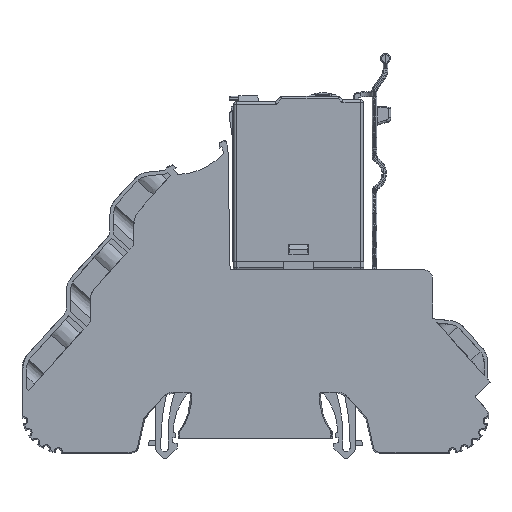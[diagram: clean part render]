
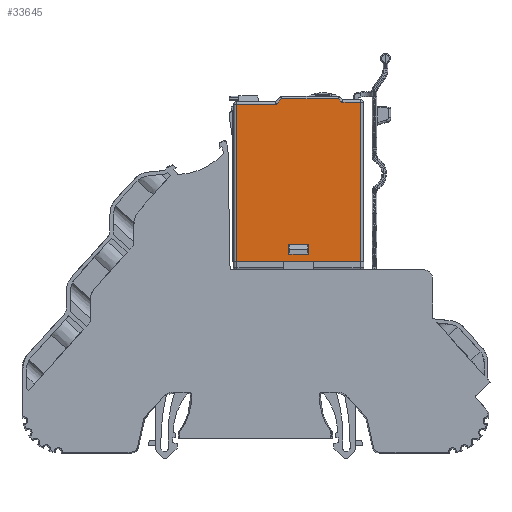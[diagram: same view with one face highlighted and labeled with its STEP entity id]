
A CAD part, left-side view. The second image highlights one B-rep face of the part: STEP entity #33645.
In plain terms, the highlighted planar face has unit normal (-1, 0, 0).
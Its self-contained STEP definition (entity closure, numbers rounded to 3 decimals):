
#214 = CARTESIAN_POINT ( 'NONE',  ( -10.45, -14.499, 73.7 ) ) ;
#1364 = VERTEX_POINT ( 'NONE', #60290 ) ;
#1937 = CARTESIAN_POINT ( 'NONE',  ( -10.45, 12.501, 72.6 ) ) ;
#3916 = EDGE_CURVE ( 'NONE', #36098, #75476, #33193, .T. ) ;
#4245 = ORIENTED_EDGE ( 'NONE', *, *, #9318, .T. ) ;
#5753 = DIRECTION ( 'NONE',  ( 0., 0.707, 0.707 ) ) ;
#7607 = DIRECTION ( 'NONE',  ( 0., -1., 0. ) ) ;
#9318 = EDGE_CURVE ( 'NONE', #109759, #35373, #58337, .T. ) ;
#9528 = CARTESIAN_POINT ( 'NONE',  ( -10.45, -2.999, 41.3 ) ) ;
#12161 = CARTESIAN_POINT ( 'NONE',  ( -10.45, -13.999, 39.8 ) ) ;
#13905 = VECTOR ( 'NONE', #91153, 1000. ) ;
#14300 = ORIENTED_EDGE ( 'NONE', *, *, #114375, .T. ) ;
#14884 = CARTESIAN_POINT ( 'NONE',  ( -10.45, 3.498, 72.746 ) ) ;
#15983 = VERTEX_POINT ( 'NONE', #27498 ) ;
#16263 = EDGE_CURVE ( 'NONE', #99762, #1364, #16923, .T. ) ;
#16923 = LINE ( 'NONE', #14884, #88416 ) ;
#19198 = VECTOR ( 'NONE', #110860, 1000. ) ;
#20336 = VECTOR ( 'NONE', #28604, 1000. ) ;
#22934 = ORIENTED_EDGE ( 'NONE', *, *, #99804, .F. ) ;
#22935 = EDGE_CURVE ( 'NONE', #75476, #83388, #61711, .T. ) ;
#27498 = CARTESIAN_POINT ( 'NONE',  ( -10.45, 12.001, 72.6 ) ) ;
#27507 = ORIENTED_EDGE ( 'NONE', *, *, #90460, .T. ) ;
#27508 = ORIENTED_EDGE ( 'NONE', *, *, #43175, .F. ) ;
#27666 = CARTESIAN_POINT ( 'NONE',  ( -10.45, -13.999, 73. ) ) ;
#27786 = LINE ( 'NONE', #214, #78220 ) ;
#28334 = ORIENTED_EDGE ( 'NONE', *, *, #22935, .F. ) ;
#28604 = DIRECTION ( 'NONE',  ( 0., 0., 1. ) ) ;
#30132 = DIRECTION ( 'NONE',  ( 0., 0., 1. ) ) ;
#31050 = DIRECTION ( 'NONE',  ( 0., -1., 0. ) ) ;
#33193 = LINE ( 'NONE', #76080, #19198 ) ;
#33350 = EDGE_LOOP ( 'NONE', ( #103769, #4245, #14300, #113333, #39985, #37641, #27507, #110019 ) ) ;
#33645 = ADVANCED_FACE ( 'NONE', ( #86786, #40436 ), #77346, .T. ) ;
#33849 = AXIS2_PLACEMENT_3D ( 'NONE', #89759, #107255, #70503 ) ;
#35373 = VERTEX_POINT ( 'NONE', #27666 ) ;
#36098 = VERTEX_POINT ( 'NONE', #79157 ) ;
#37641 = ORIENTED_EDGE ( 'NONE', *, *, #16263, .T. ) ;
#38404 = VECTOR ( 'NONE', #5753, 1000. ) ;
#38457 = EDGE_CURVE ( 'NONE', #94010, #99762, #27786, .T. ) ;
#39985 = ORIENTED_EDGE ( 'NONE', *, *, #38457, .T. ) ;
#40436 = FACE_BOUND ( 'NONE', #92869, .T. ) ;
#43175 = EDGE_CURVE ( 'NONE', #87247, #36098, #110288, .T. ) ;
#44352 = EDGE_CURVE ( 'NONE', #66578, #94010, #51033, .T. ) ;
#46856 = LINE ( 'NONE', #55899, #20336 ) ;
#46893 = CARTESIAN_POINT ( 'NONE',  ( -10.45, -2.999, 43.4 ) ) ;
#47630 = DIRECTION ( 'NONE',  ( 0., 0., -1. ) ) ;
#47685 = CARTESIAN_POINT ( 'NONE',  ( -10.45, 2.544, 73.7 ) ) ;
#50438 = DIRECTION ( 'NONE',  ( 0., 0.707, -0.707 ) ) ;
#51033 = LINE ( 'NONE', #113689, #38404 ) ;
#52105 = CARTESIAN_POINT ( 'NONE',  ( -10.45, 1.001, 43.4 ) ) ;
#53916 = CARTESIAN_POINT ( 'NONE',  ( -10.45, 12.001, 39.8 ) ) ;
#54779 = LINE ( 'NONE', #53916, #58939 ) ;
#55899 = CARTESIAN_POINT ( 'NONE',  ( -10.45, -2.999, 43.4 ) ) ;
#58337 = LINE ( 'NONE', #12161, #61134 ) ;
#58939 = VECTOR ( 'NONE', #47630, 1000. ) ;
#60178 = LINE ( 'NONE', #105913, #72817 ) ;
#60290 = CARTESIAN_POINT ( 'NONE',  ( -10.45, 3.644, 72.6 ) ) ;
#60344 = DIRECTION ( 'NONE',  ( 0., 1., 0. ) ) ;
#61134 = VECTOR ( 'NONE', #30132, 1000. ) ;
#61186 = CARTESIAN_POINT ( 'NONE',  ( -10.45, -10.042, 73. ) ) ;
#61711 = LINE ( 'NONE', #84731, #78551 ) ;
#66578 = VERTEX_POINT ( 'NONE', #61186 ) ;
#67117 = LINE ( 'NONE', #1937, #13905 ) ;
#68491 = VECTOR ( 'NONE', #60344, 1000. ) ;
#70503 = DIRECTION ( 'NONE',  ( 0., -1., 0. ) ) ;
#70738 = EDGE_CURVE ( 'NONE', #95701, #109759, #95471, .T. ) ;
#72144 = ORIENTED_EDGE ( 'NONE', *, *, #3916, .F. ) ;
#72817 = VECTOR ( 'NONE', #104778, 1000. ) ;
#75476 = VERTEX_POINT ( 'NONE', #106634 ) ;
#76080 = CARTESIAN_POINT ( 'NONE',  ( -10.45, 1.001, 41.3 ) ) ;
#77346 = PLANE ( 'NONE',  #33849 ) ;
#78220 = VECTOR ( 'NONE', #98741, 1000. ) ;
#78551 = VECTOR ( 'NONE', #31050, 1000. ) ;
#79157 = CARTESIAN_POINT ( 'NONE',  ( -10.45, 1.001, 43.4 ) ) ;
#80312 = CARTESIAN_POINT ( 'NONE',  ( -10.45, -13.999, 39.8 ) ) ;
#83388 = VERTEX_POINT ( 'NONE', #9528 ) ;
#84731 = CARTESIAN_POINT ( 'NONE',  ( -10.45, -0.999, 41.3 ) ) ;
#86786 = FACE_OUTER_BOUND ( 'NONE', #33350, .T. ) ;
#87247 = VERTEX_POINT ( 'NONE', #46893 ) ;
#88416 = VECTOR ( 'NONE', #50438, 1000. ) ;
#89759 = CARTESIAN_POINT ( 'NONE',  ( -10.45, -14.499, 39.8 ) ) ;
#89804 = CARTESIAN_POINT ( 'NONE',  ( -10.45, -9.342, 73.7 ) ) ;
#90460 = EDGE_CURVE ( 'NONE', #1364, #15983, #67117, .T. ) ;
#91153 = DIRECTION ( 'NONE',  ( 0., 1., 0. ) ) ;
#92869 = EDGE_LOOP ( 'NONE', ( #28334, #72144, #27508, #22934 ) ) ;
#94010 = VERTEX_POINT ( 'NONE', #89804 ) ;
#95471 = LINE ( 'NONE', #114356, #102436 ) ;
#95701 = VERTEX_POINT ( 'NONE', #104993 ) ;
#98741 = DIRECTION ( 'NONE',  ( 0., 1., 0. ) ) ;
#99762 = VERTEX_POINT ( 'NONE', #47685 ) ;
#99804 = EDGE_CURVE ( 'NONE', #83388, #87247, #46856, .T. ) ;
#102436 = VECTOR ( 'NONE', #7607, 1000. ) ;
#103769 = ORIENTED_EDGE ( 'NONE', *, *, #70738, .T. ) ;
#104778 = DIRECTION ( 'NONE',  ( 0., 1., 0. ) ) ;
#104993 = CARTESIAN_POINT ( 'NONE',  ( -10.45, 12.001, 39.8 ) ) ;
#105913 = CARTESIAN_POINT ( 'NONE',  ( -10.45, -10.249, 73. ) ) ;
#106634 = CARTESIAN_POINT ( 'NONE',  ( -10.45, 1.001, 41.3 ) ) ;
#107255 = DIRECTION ( 'NONE',  ( -1., 0., 0. ) ) ;
#109759 = VERTEX_POINT ( 'NONE', #80312 ) ;
#110019 = ORIENTED_EDGE ( 'NONE', *, *, #114168, .T. ) ;
#110288 = LINE ( 'NONE', #52105, #68491 ) ;
#110860 = DIRECTION ( 'NONE',  ( 0., 0., -1. ) ) ;
#113333 = ORIENTED_EDGE ( 'NONE', *, *, #44352, .T. ) ;
#113689 = CARTESIAN_POINT ( 'NONE',  ( -10.45, -9.195, 73.846 ) ) ;
#114168 = EDGE_CURVE ( 'NONE', #15983, #95701, #54779, .T. ) ;
#114356 = CARTESIAN_POINT ( 'NONE',  ( -10.45, -14.499, 39.8 ) ) ;
#114375 = EDGE_CURVE ( 'NONE', #35373, #66578, #60178, .T. ) ;
